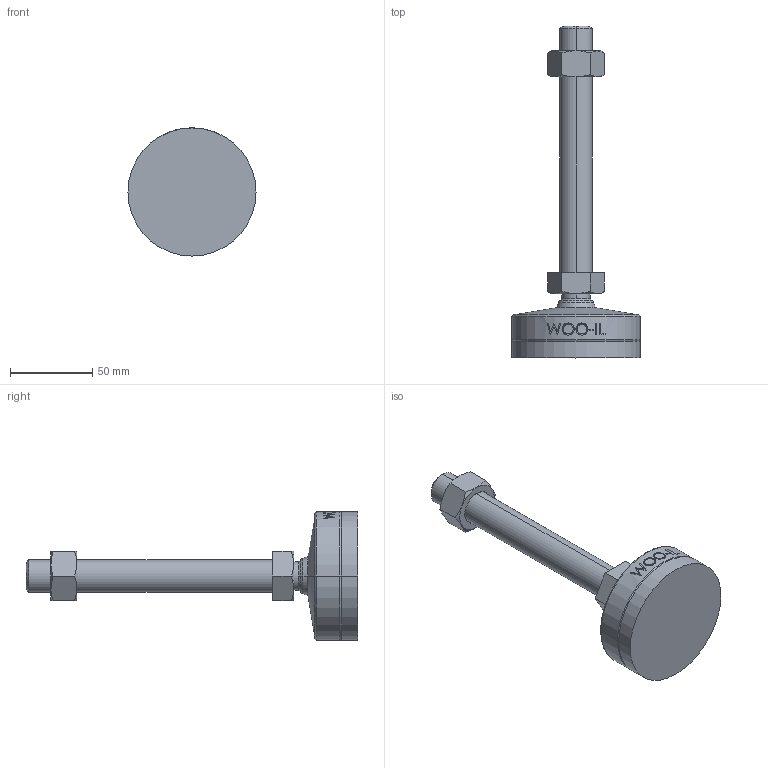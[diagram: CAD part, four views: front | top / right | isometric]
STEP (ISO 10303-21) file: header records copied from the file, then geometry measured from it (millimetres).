
FILE_DESCRIPTION (( 'STEP AP214' ), '1' );
FILE_NAME ('MFNR78-M20-150.step', '2021-02-22T09:08:40', ( '' ), ( '' ), 'SwSTEP 2.0', 'SolidWorks 2019', '' );
FILE_SCHEMA (( 'AUTOMOTIVE_DESIGN' ));
Length unit declared in the file: millimetre
Products named in the file (2): MFNR78-M20-150
Bounding box: 78 x 202 x 78 mm (x, y, z)
Volume: 201312.3 mm3; surface area: 31963.5 mm2
Topology: 2 solids, 2 shells, 105 faces, 249 edges, 160 vertices
Faces by surface type: plane 47, cone 18, cylinder 18, bspline 16, torus 4, sphere 2
Entity records: 4561 total; most frequent: CARTESIAN_POINT 2204, ORIENTED_EDGE 498, DIRECTION 437, EDGE_CURVE 249, AXIS2_PLACEMENT_3D 167, VERTEX_POINT 160, EDGE_LOOP 119, ADVANCED_FACE 105
